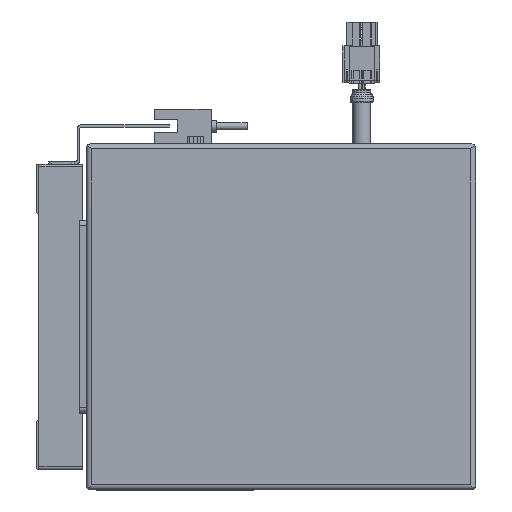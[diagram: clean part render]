
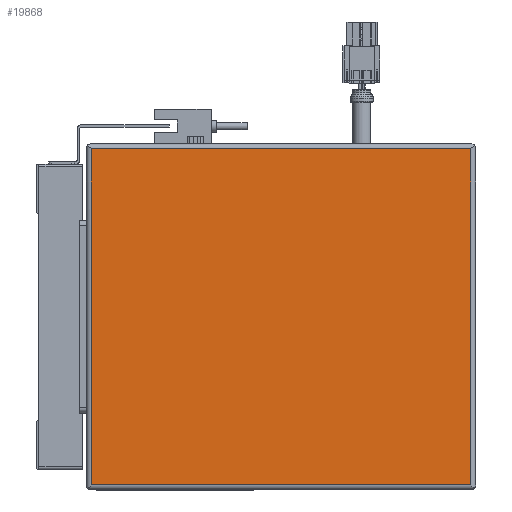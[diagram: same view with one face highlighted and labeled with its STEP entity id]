
A CAD part, left-side view. The second image highlights one B-rep face of the part: STEP entity #19868.
In plain terms, the highlighted planar face has unit normal (-1, 0, 0).
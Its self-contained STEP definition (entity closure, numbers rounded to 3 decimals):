
#4738=ORIENTED_EDGE('',*,*,#8424,.T.);
#4739=ORIENTED_EDGE('',*,*,#8425,.F.);
#4740=ORIENTED_EDGE('',*,*,#8426,.F.);
#4741=ORIENTED_EDGE('',*,*,#8427,.T.);
#8424=EDGE_CURVE('',#10611,#10612,#12718,.T.);
#8425=EDGE_CURVE('',#10613,#10612,#12719,.T.);
#8426=EDGE_CURVE('',#10614,#10613,#12720,.T.);
#8427=EDGE_CURVE('',#10614,#10611,#12721,.T.);
#10611=VERTEX_POINT('',#31710);
#10612=VERTEX_POINT('',#31711);
#10613=VERTEX_POINT('',#31713);
#10614=VERTEX_POINT('',#31715);
#12718=LINE('',#31709,#14815);
#12719=LINE('',#31712,#14816);
#12720=LINE('',#31714,#14817);
#12721=LINE('',#31716,#14818);
#14815=VECTOR('',#25837,1000.);
#14816=VECTOR('',#25838,1000.);
#14817=VECTOR('',#25839,1000.);
#14818=VECTOR('',#25840,1000.);
#16383=EDGE_LOOP('',(#4738,#4739,#4740,#4741));
#17818=FACE_BOUND('',#16383,.T.);
#18884=PLANE('',#21476);
#19868=ADVANCED_FACE('',(#17818),#18884,.F.);
#21476=AXIS2_PLACEMENT_3D('',#31708,#25835,#25836);
#25835=DIRECTION('',(1.,0.,0.));
#25836=DIRECTION('',(0.,0.,-1.));
#25837=DIRECTION('',(0.,-1.,0.));
#25838=DIRECTION('',(0.,0.,-1.));
#25839=DIRECTION('',(0.,-1.,0.));
#25840=DIRECTION('',(0.,0.,-1.));
#31708=CARTESIAN_POINT('',(-52.,2.,65.5));
#31709=CARTESIAN_POINT('',(-52.,152.,-65.5));
#31710=CARTESIAN_POINT('',(-52.,150.,-65.5));
#31711=CARTESIAN_POINT('',(-52.,2.,-65.5));
#31712=CARTESIAN_POINT('',(-52.,2.,67.5));
#31713=CARTESIAN_POINT('',(-52.,2.,65.5));
#31714=CARTESIAN_POINT('',(-52.,152.,65.5));
#31715=CARTESIAN_POINT('',(-52.,150.,65.5));
#31716=CARTESIAN_POINT('',(-52.,150.,67.5));
